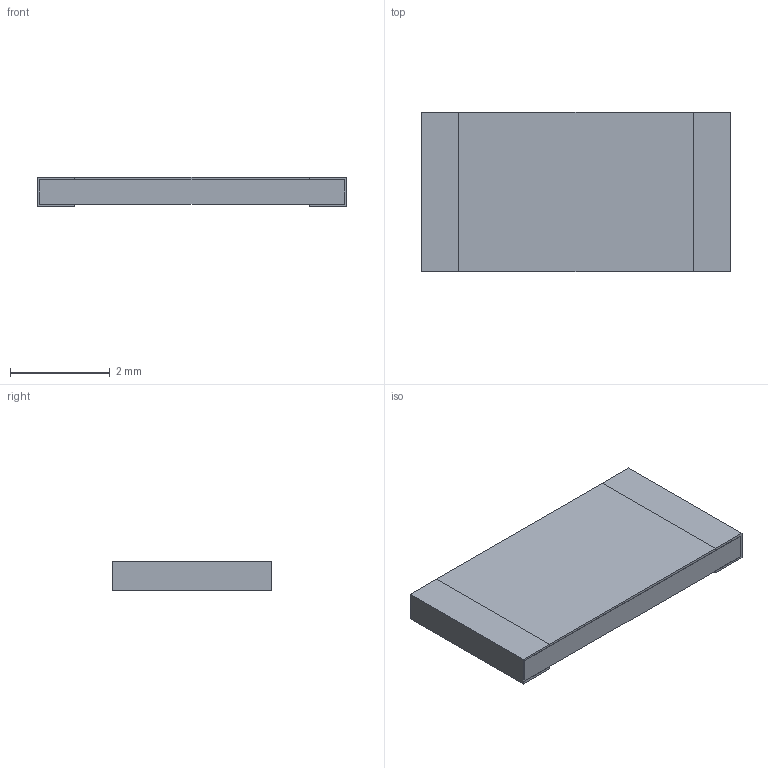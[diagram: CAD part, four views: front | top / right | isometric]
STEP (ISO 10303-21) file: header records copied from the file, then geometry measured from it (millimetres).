
FILE_DESCRIPTION(('STEP AP203'), '1');
FILE_NAME('P1-85-1', '', ('UNSPECIFIED'), ('UNSPECIFIED'), 'ASCON STEP Converter 1.6', 'ASCON Math Kernel', '');
FILE_SCHEMA(('CONFIG_CONTROL_DESIGN'));
Length unit declared in the file: millimetre
Bounding box: 6.2 x 3.2 x 0.6 mm (x, y, z)
Volume: 11.1 mm3; surface area: 106.9 mm2
Topology: 4 solids, 5 shells, 51 faces, 123 edges, 82 vertices
Faces by surface type: plane 47, cylinder 4
Entity records: 1937 total; most frequent: CARTESIAN_POINT 257, ORIENTED_EDGE 246, DIRECTION 235, EDGE_CURVE 123, LINE 115, VECTOR 115, VERTEX_POINT 82, AXIS2_PLACEMENT_3D 60
